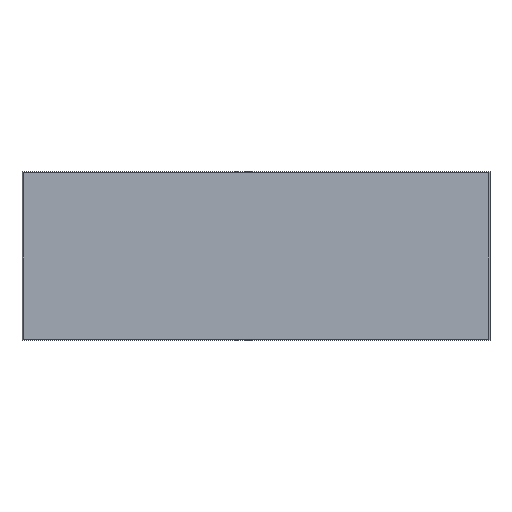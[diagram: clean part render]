
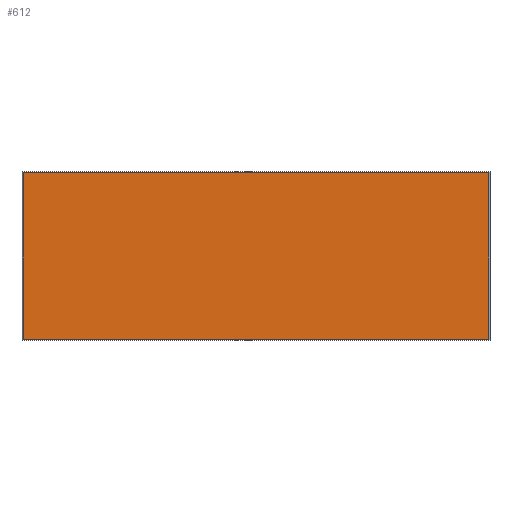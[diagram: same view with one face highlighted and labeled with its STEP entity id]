
A CAD part, top view. The second image highlights one B-rep face of the part: STEP entity #612.
In plain terms, the highlighted planar face has unit normal (0, 0, 1).
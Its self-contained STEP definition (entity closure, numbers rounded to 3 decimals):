
#362=DIRECTION('',(-1.,0.,0.));
#363=VECTOR('',#362,433.);
#364=CARTESIAN_POINT('',(216.5,77.5,3.));
#365=LINE('',#364,#363);
#369=DIRECTION('',(0.,1.,0.));
#370=VECTOR('',#369,155.);
#371=CARTESIAN_POINT('',(216.5,-77.5,3.));
#372=LINE('',#371,#370);
#376=DIRECTION('',(1.,0.,0.));
#377=VECTOR('',#376,433.);
#378=CARTESIAN_POINT('',(-216.5,-77.5,3.));
#379=LINE('',#378,#377);
#383=DIRECTION('',(0.,-1.,0.));
#384=VECTOR('',#383,155.);
#385=CARTESIAN_POINT('',(-216.5,77.5,3.));
#386=LINE('',#385,#384);
#401=CARTESIAN_POINT('',(216.5,77.5,3.));
#402=CARTESIAN_POINT('',(-216.5,77.5,3.));
#403=VERTEX_POINT('',#401);
#404=VERTEX_POINT('',#402);
#425=CARTESIAN_POINT('',(-216.5,-77.5,3.));
#426=CARTESIAN_POINT('',(216.5,-77.5,3.));
#427=VERTEX_POINT('',#425);
#428=VERTEX_POINT('',#426);
#600=CARTESIAN_POINT('',(0.,0.,3.));
#601=DIRECTION('',(0.,0.,1.));
#602=DIRECTION('',(1.,0.,0.));
#603=AXIS2_PLACEMENT_3D('',#600,#601,#602);
#604=PLANE('',#603);
#605=ORIENTED_EDGE('',*,*,#483,.F.);
#606=ORIENTED_EDGE('',*,*,#499,.F.);
#608=ORIENTED_EDGE('',*,*,#607,.F.);
#609=ORIENTED_EDGE('',*,*,#593,.F.);
#610=EDGE_LOOP('',(#605,#606,#608,#609));
#611=FACE_OUTER_BOUND('',#610,.F.);
#483=EDGE_CURVE('',#403,#404,#365,.T.);
#499=EDGE_CURVE('',#428,#403,#372,.T.);
#593=EDGE_CURVE('',#404,#427,#386,.T.);
#607=EDGE_CURVE('',#427,#428,#379,.T.);
#612=ADVANCED_FACE('',(#611),#604,.T.);
